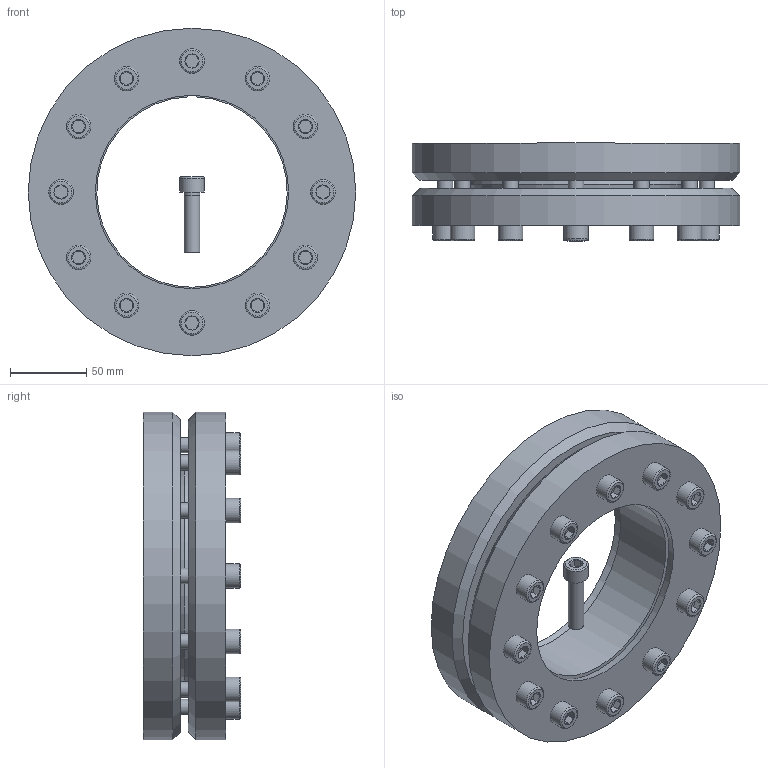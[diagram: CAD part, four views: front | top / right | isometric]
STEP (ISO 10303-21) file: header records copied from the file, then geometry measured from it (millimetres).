
FILE_DESCRIPTION( ( 'Unknown' ), '1' );
FILE_NAME( 'C:/Dokumente und Einstellungen/Sven/Desktop/homepage/cad - homepage/KBS19/KBS 19 - 125 x 215.stp', 'Unknown', ( 'Unknown' ), ( 'Unknown' ), 'XStep 1.0', 'Unknown', ' ' );
FILE_SCHEMA( ( 'automotive_design' ) );
Length unit declared in the file: millimetre
Products named in the file (3): Assem1; KBS 19 - 125 x 215; ISO EN DIN 4762 M10x40
Bounding box: 215 x 64 x 215 mm (x, y, z)
Volume: 2291410.7 mm3; surface area: 347741.8 mm2
Topology: 15 solids, 15 shells, 419 faces, 861 edges, 524 vertices
Faces by surface type: plane 184, cylinder 106, cone 103, torus 26
Full cylindrical faces by diameter (mm): 9 x13, 10 x74, 16 x13, 215 x4
Entity records: 2506 total; most frequent: CARTESIAN_POINT 377, DIRECTION 376, ORIENTED_EDGE 260, AXIS2_PLACEMENT_3D 170, EDGE_LOOP 165, EDGE_CURVE 130, FACE_OUTER_BOUND 104, VERTEX_POINT 103
